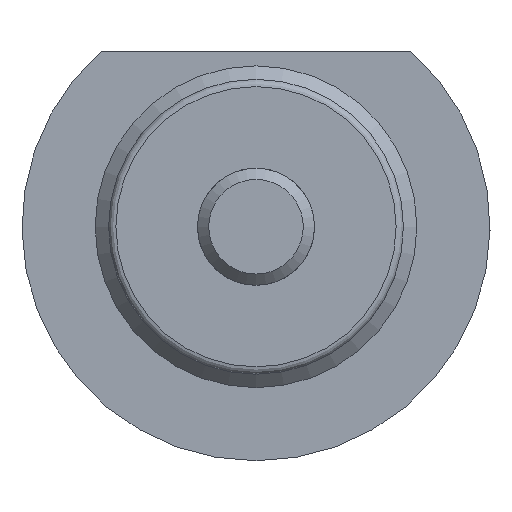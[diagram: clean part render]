
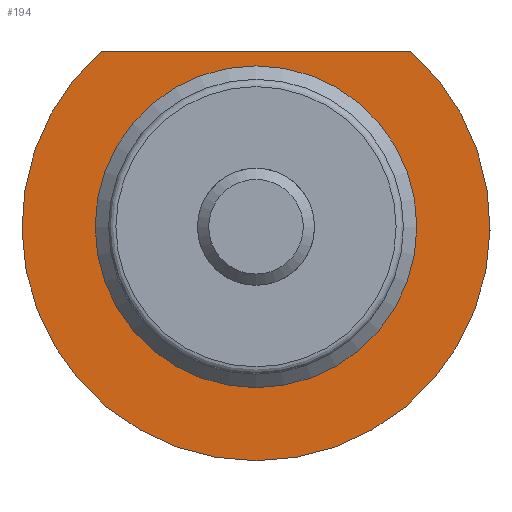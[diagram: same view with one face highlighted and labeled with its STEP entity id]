
A CAD part, left-side view. The second image highlights one B-rep face of the part: STEP entity #194.
In plain terms, the highlighted planar face has unit normal (-1, 0, 0).
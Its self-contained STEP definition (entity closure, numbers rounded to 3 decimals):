
#194 = ADVANCED_FACE( '', ( #309, #310 ), #311, .F. );
#309 = FACE_OUTER_BOUND( '', #491, .T. );
#310 = FACE_BOUND( '', #492, .T. );
#311 = PLANE( '', #493 );
#491 = EDGE_LOOP( '', ( #739, #740 ) );
#492 = EDGE_LOOP( '', ( #741 ) );
#493 = AXIS2_PLACEMENT_3D( '', #742, #743, #744 );
#739 = ORIENTED_EDGE( '', *, *, #1014, .F. );
#740 = ORIENTED_EDGE( '', *, *, #1015, .T. );
#741 = ORIENTED_EDGE( '', *, *, #1012, .T. );
#742 = CARTESIAN_POINT( '', ( 0., 11., 0. ) );
#743 = DIRECTION( '', ( 1., 0., 0. ) );
#744 = DIRECTION( '', ( 0., 0., -1. ) );
#1012 = EDGE_CURVE( '', #1134, #1134, #1135, .T. );
#1014 = EDGE_CURVE( '', #1138, #1139, #1140, .T. );
#1015 = EDGE_CURVE( '', #1138, #1139, #1141, .T. );
#1134 = VERTEX_POINT( '', #1423 );
#1135 = CIRCLE( '', #1424, 11. );
#1138 = VERTEX_POINT( '', #1427 );
#1139 = VERTEX_POINT( '', #1428 );
#1140 = CIRCLE( '', #1429, 16. );
#1141 = LINE( '', #1430, #1431 );
#1423 = CARTESIAN_POINT( '', ( 0., 0., -11. ) );
#1424 = AXIS2_PLACEMENT_3D( '', #1626, #1627, #1628 );
#1427 = CARTESIAN_POINT( '', ( 0., -10.583, 12. ) );
#1428 = CARTESIAN_POINT( '', ( 0., 10.583, 12. ) );
#1429 = AXIS2_PLACEMENT_3D( '', #1632, #1633, #1634 );
#1430 = CARTESIAN_POINT( '', ( 0., -43.2, 12. ) );
#1431 = VECTOR( '', #1635, 1000. );
#1626 = CARTESIAN_POINT( '', ( 0., 0., 0. ) );
#1627 = DIRECTION( '', ( 1., 0., 0. ) );
#1628 = DIRECTION( '', ( 0., 0., -1. ) );
#1632 = CARTESIAN_POINT( '', ( 0., 0., 0. ) );
#1633 = DIRECTION( '', ( 1., 0., 0. ) );
#1634 = DIRECTION( '', ( 0., 0., -1. ) );
#1635 = DIRECTION( '', ( 0., 1., 0. ) );
